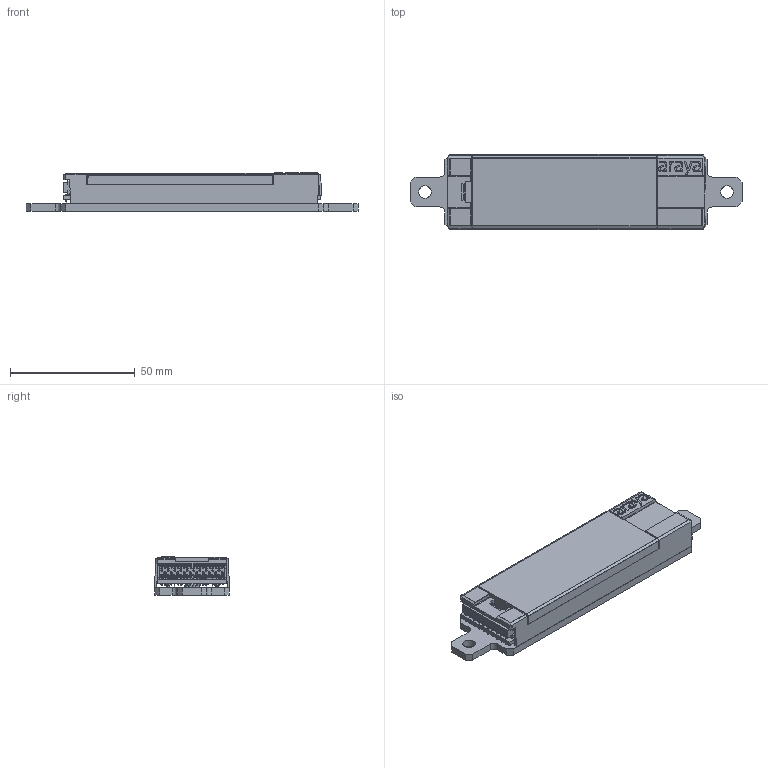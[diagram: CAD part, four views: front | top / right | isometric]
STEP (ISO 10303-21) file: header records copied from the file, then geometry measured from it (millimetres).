
FILE_DESCRIPTION (( 'STEP AP203' ), '1' );
FILE_NAME ('45.030.001.01 1 ALM ASSEMBLY PROFILE.STEP', '2016-04-07T00:19:50', ( 'Rob' ), ( '' ), 'SwSTEP 2.0', 'SolidWorks 2015', '' );
FILE_SCHEMA (( 'CONFIG_CONTROL_DESIGN' ));
Length unit declared in the file: inch
Products named in the file (1): 45.030.001.01 1 ALM ASSEMBLY PROFILE
Bounding box: 133 x 30.05 x 15.36 mm (x, y, z)
Surface area: 28109.4 mm2 (no closed solid volume)
Topology: 0 solids, 218 shells, 1413 faces, 6417 edges, 5108 vertices
Faces by surface type: plane 1151, cylinder 186, bspline 55, sphere 14, cone 7
Entity records: 64106 total; most frequent: CARTESIAN_POINT 14224, DIRECTION 9598, ORIENTED_EDGE 8504, EDGE_CURVE 6412, LINE 5602, VECTOR 5602, VERTEX_POINT 5108, AXIS2_PLACEMENT_3D 1998
